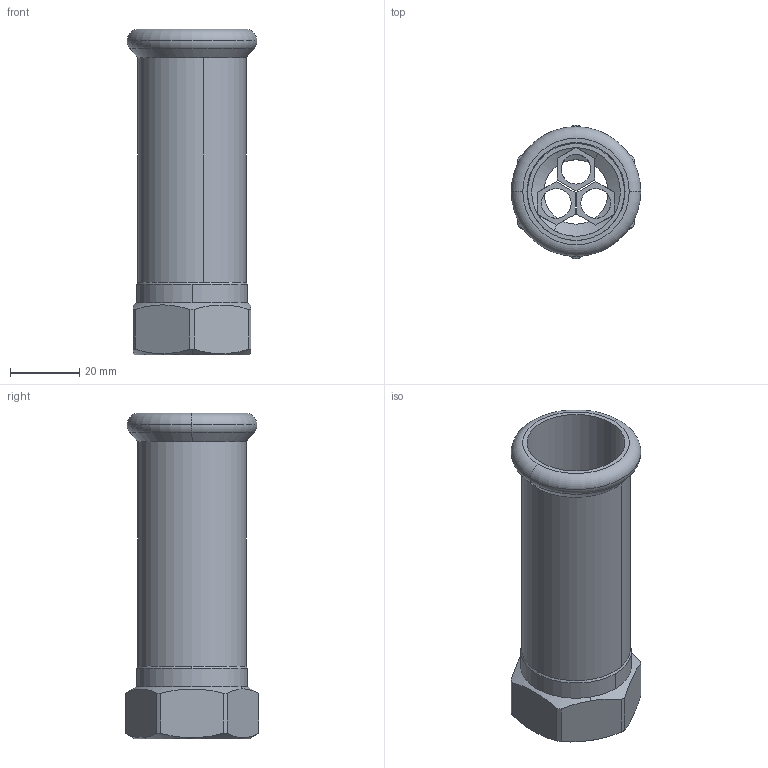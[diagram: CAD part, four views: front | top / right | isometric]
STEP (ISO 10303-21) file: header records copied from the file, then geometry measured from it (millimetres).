
FILE_DESCRIPTION(('OneSpaceDesigner STEP Export'),'2;1');
FILE_NAME('R2741 28xRp1-2.stp','2010-06-10T14:48:20',(''),(''),'OneSpace Designer STEP processor for AP214 (Solid Model)','OneSpace Modeling 15.00A 14-Mar-2007 (C) CoCreate Software GmbH','');
FILE_SCHEMA(('AUTOMOTIVE_DESIGN { 1 0 10303 214 1 1 1 1 }'));
Length unit declared in the file: millimetre
Products named in the file (2): R2741_28xRp1-2
Assembly tree (1 placements, depth 2):
  R2741_28xRp1-2
    R2741_28xRp1-2
Bounding box: 37.45 x 38.5 x 94 mm (x, y, z)
Volume: 23554.9 mm3; surface area: 19566.1 mm2
Topology: 1 solids, 1 shells, 83 faces, 244 edges, 161 vertices
Faces by surface type: plane 36, cylinder 27, cone 16, torus 4
Entity records: 3977 total; most frequent: CARTESIAN_POINT 1919, ORIENTED_EDGE 488, DIRECTION 335, EDGE_CURVE 244, VERTEX_POINT 161, AXIS2_PLACEMENT_3D 114, VECTOR 107, LINE 107
